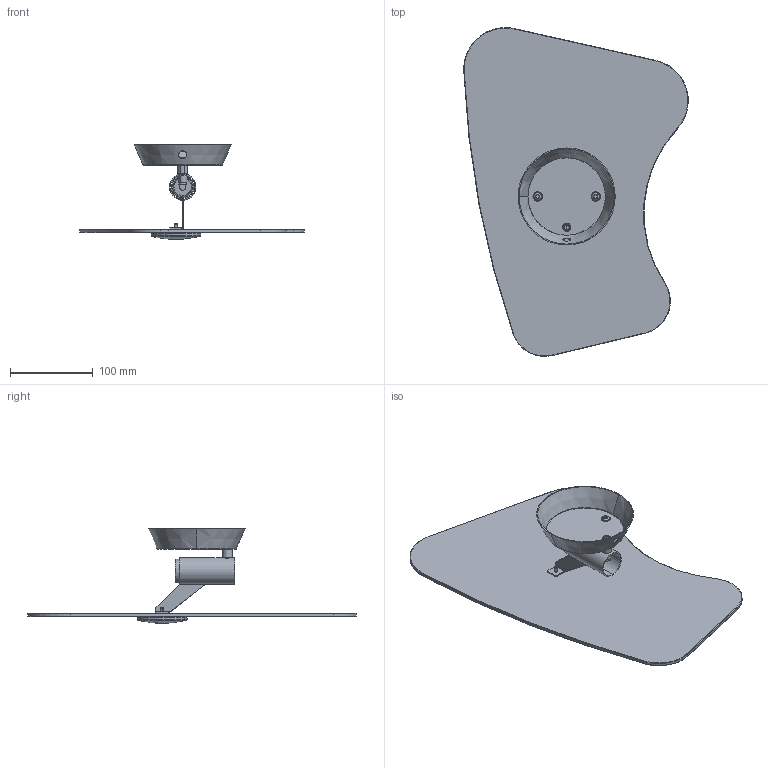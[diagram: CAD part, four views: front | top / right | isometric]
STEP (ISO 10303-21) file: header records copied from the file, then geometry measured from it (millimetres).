
FILE_DESCRIPTION (( 'STEP AP214' ), '1' );
FILE_NAME ('043_5_W_PL_3D.STEP', '2021-05-20T13:16:29', ( '' ), ( '' ), 'SwSTEP 2.0', 'SolidWorks 2021', '' );
FILE_SCHEMA (( 'AUTOMOTIVE_DESIGN' ));
Length unit declared in the file: millimetre
Products named in the file (1): 043_5_W_PL_3D
Bounding box: 270.66 x 396.37 x 114.2 mm (x, y, z)
Volume: 378991.1 mm3; surface area: 232192.3 mm2
Topology: 11 solids, 11 shells, 254 faces, 581 edges, 358 vertices
Faces by surface type: plane 124, cylinder 68, torus 32, cone 28, sphere 2
Entity records: 10419 total; most frequent: CARTESIAN_POINT 1613, DIRECTION 1319, ORIENTED_EDGE 1158, EDGE_CURVE 579, AXIS2_PLACEMENT_3D 538, VERTEX_POINT 358, EDGE_LOOP 289, CIRCLE 283
